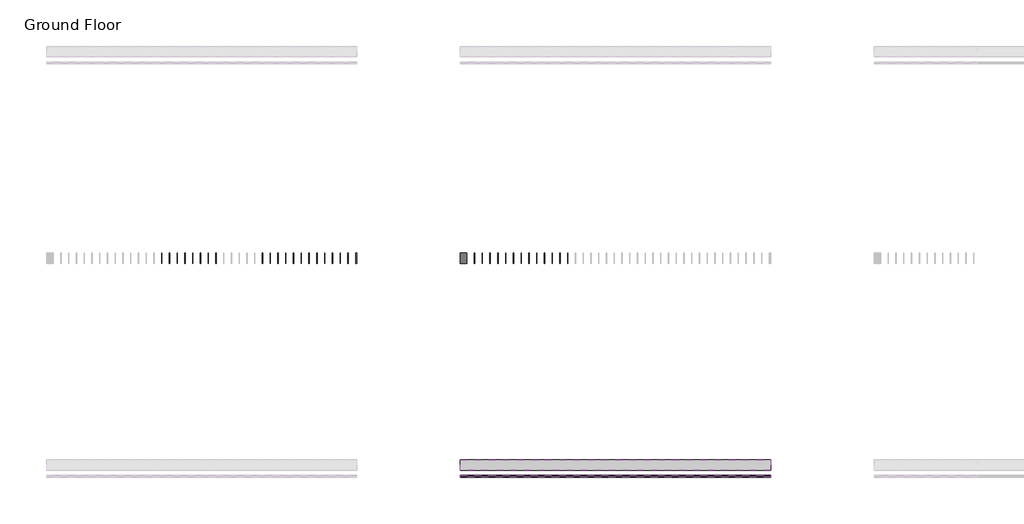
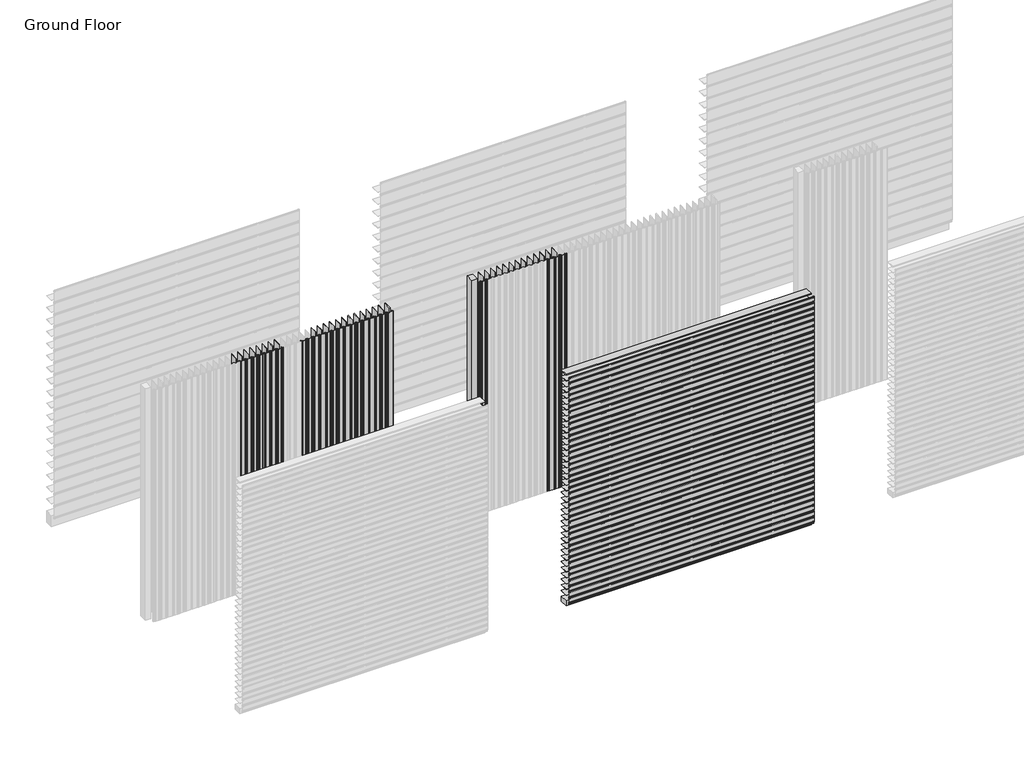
# One storey, part 33 of 350: 75 plates, 65 members.
"""IFC4 building model written with IfcOpenShell, lengths in millimetres."""

from ifc_helpers import new_model, si_unit, origin, place, context, project, spatial, transform, mapped, element, save
from components import rectangular_mullion_894c3da7, empty_system_panel_empty_02c6fd44, empty_system_panel_empty_81cf2ed3, empty_system_panel_empty_a36746fc, empty_system_panel_empty_86793474, empty_system_panel_empty_27b459cb, empty_system_panel_empty_8dc9dcb4

model = new_model("IFC4")

# Units and contexts
model_context = context("Model", 3, world=origin())
ifc_project = project(units=[si_unit("LENGTHUNIT", "METRE", prefix="MILLI")], contexts=[model_context])

# Site, building, storey
site = spatial("IfcSite", under=ifc_project)
building = spatial("IfcBuilding", under=site)
storey = spatial("IfcBuildingStorey", under=building, Name="Ground Floor", Elevation=0.0)

# Members
placement = place(None, origin())
rectangular_mullion_shape = rectangular_mullion_894c3da7(model_context)
element("IfcMember", 1, ObjectType="Rectangular Mullion : Cladding_Aluminium_Modinex_AluSelekta_Channel_75_SpottedGum", at=placement, inside=storey, context=model_context, shape_type="MappedRepresentation", body=[
    mapped(rectangular_mullion_shape, transform((42791.4361642, 14968.2978302, 0.0), x_axis=(1.0, 0.0, 0.0), y_axis=(0.0, -1.0, 0.0), z_axis=(0.0, 0.0, -1.0))),
])
element("IfcMember", 2, ObjectType="Rectangular Mullion : Cladding_Aluminium_Modinex_AluSelekta_Channel_75_SpottedGum", at=placement, inside=storey, context=model_context, shape_type="MappedRepresentation", body=[
    mapped(rectangular_mullion_shape, transform((42866.4361642, 14968.2978302, 0.0), x_axis=(1.0, 0.0, 0.0), y_axis=(0.0, -1.0, 0.0), z_axis=(0.0, 0.0, -1.0))),
])
element("IfcMember", 3, ObjectType="Rectangular Mullion : Cladding_Aluminium_Modinex_AluSelekta_Channel_75_SpottedGum", at=placement, inside=storey, context=model_context, shape_type="MappedRepresentation", body=[
    mapped(rectangular_mullion_shape, transform((42941.4361642, 14968.2978302, 0.0), x_axis=(1.0, 0.0, 0.0), y_axis=(0.0, -1.0, 0.0), z_axis=(0.0, 0.0, -1.0))),
])
element("IfcMember", 4, ObjectType="Rectangular Mullion : Cladding_Aluminium_Modinex_AluSelekta_Channel_75_SpottedGum", at=placement, inside=storey, context=model_context, shape_type="MappedRepresentation", body=[
    mapped(rectangular_mullion_shape, transform((43016.4361642, 14968.2978302, 0.0), x_axis=(1.0, 0.0, 0.0), y_axis=(0.0, -1.0, 0.0), z_axis=(0.0, 0.0, -1.0))),
])
element("IfcMember", 5, ObjectType="Rectangular Mullion : Cladding_Aluminium_Modinex_AluSelekta_Channel_75_SpottedGum", at=placement, inside=storey, context=model_context, shape_type="MappedRepresentation", body=[
    mapped(rectangular_mullion_shape, transform((43091.4361642, 14968.2978302, 0.0), x_axis=(1.0, 0.0, 0.0), y_axis=(0.0, -1.0, 0.0), z_axis=(0.0, 0.0, -1.0))),
])
element("IfcMember", 6, ObjectType="Rectangular Mullion : Cladding_Aluminium_Modinex_AluSelekta_Channel_75_SpottedGum", at=placement, inside=storey, context=model_context, shape_type="MappedRepresentation", body=[
    mapped(rectangular_mullion_shape, transform((43166.4361642, 14968.2978302, 0.0), x_axis=(1.0, 0.0, 0.0), y_axis=(0.0, -1.0, 0.0), z_axis=(0.0, 0.0, -1.0))),
])
element("IfcMember", 7, ObjectType="Rectangular Mullion : Cladding_Aluminium_Modinex_AluSelekta_Channel_75_SpottedGum", at=placement, inside=storey, context=model_context, shape_type="MappedRepresentation", body=[
    mapped(rectangular_mullion_shape, transform((43241.4361642, 14968.2978302, 0.0), x_axis=(1.0, 0.0, 0.0), y_axis=(0.0, -1.0, 0.0), z_axis=(0.0, 0.0, -1.0))),
])
element("IfcMember", 8, ObjectType="Rectangular Mullion : Cladding_Aluminium_Modinex_AluSelekta_Channel_75_SpottedGum", at=placement, inside=storey, context=model_context, shape_type="MappedRepresentation", body=[
    mapped(rectangular_mullion_shape, transform((43316.4361642, 14968.2978302, 0.0), x_axis=(1.0, 0.0, 0.0), y_axis=(0.0, -1.0, 0.0), z_axis=(0.0, 0.0, -1.0))),
])
element("IfcMember", 9, ObjectType="Rectangular Mullion : Cladding_Aluminium_Modinex_AluSelekta_Channel_75_SpottedGum", at=placement, inside=storey, context=model_context, shape_type="MappedRepresentation", body=[
    mapped(rectangular_mullion_shape, transform((43391.4361642, 14968.2978302, 0.0), x_axis=(1.0, 0.0, 0.0), y_axis=(0.0, -1.0, 0.0), z_axis=(0.0, 0.0, -1.0))),
])
element("IfcMember", 10, ObjectType="Rectangular Mullion : Cladding_Aluminium_Modinex_AluSelekta_Channel_75_SpottedGum", at=placement, inside=storey, context=model_context, shape_type="MappedRepresentation", body=[
    mapped(rectangular_mullion_shape, transform((43466.4361642, 14968.2978302, 0.0), x_axis=(1.0, 0.0, 0.0), y_axis=(0.0, -1.0, 0.0), z_axis=(0.0, 0.0, -1.0))),
])
element("IfcMember", 11, ObjectType="Rectangular Mullion : Cladding_Aluminium_Modinex_AluSelekta_Channel_75_SpottedGum", at=placement, inside=storey, context=model_context, shape_type="MappedRepresentation", body=[
    mapped(rectangular_mullion_shape, transform((43541.4361642, 14968.2978302, 0.0), x_axis=(1.0, 0.0, 0.0), y_axis=(0.0, -1.0, 0.0), z_axis=(0.0, 0.0, -1.0))),
])
element("IfcMember", 12, ObjectType="Rectangular Mullion : Cladding_Aluminium_Modinex_AluSelekta_Channel_75_SpottedGum", at=placement, inside=storey, context=model_context, shape_type="MappedRepresentation", body=[
    mapped(rectangular_mullion_shape, transform((43616.4361642, 14968.2978302, 0.0), x_axis=(1.0, 0.0, 0.0), y_axis=(0.0, -1.0, 0.0), z_axis=(0.0, 0.0, -1.0))),
])
element("IfcMember", 13, ObjectType="Rectangular Mullion : Cladding_Aluminium_Modinex_AluSelekta_Channel_75_SpottedGum", at=placement, inside=storey, context=model_context, shape_type="MappedRepresentation", body=[
    mapped(rectangular_mullion_shape, transform((43691.4361642, 14968.2978302, 0.0), x_axis=(1.0, 0.0, 0.0), y_axis=(0.0, -1.0, 0.0), z_axis=(0.0, 0.0, -1.0))),
])
element("IfcMember", 14, ObjectType="Rectangular Mullion : Cladding_Aluminium_Modinex_AluSelekta_Channel_75_SpottedGum", at=placement, inside=storey, context=model_context, shape_type="MappedRepresentation", body=[
    mapped(rectangular_mullion_shape, transform((43766.4361642, 14968.2978302, 0.0), x_axis=(1.0, 0.0, 0.0), y_axis=(0.0, -1.0, 0.0), z_axis=(0.0, 0.0, -1.0))),
])
element("IfcMember", 15, ObjectType="Rectangular Mullion : Cladding_Aluminium_Modinex_AluSelekta_Channel_75_SpottedGum", at=placement, inside=storey, context=model_context, shape_type="MappedRepresentation", body=[
    mapped(rectangular_mullion_shape, transform((43841.4361642, 14968.2978302, 0.0), x_axis=(1.0, 0.0, 0.0), y_axis=(0.0, -1.0, 0.0), z_axis=(0.0, 0.0, -1.0))),
])
element("IfcMember", 16, ObjectType="Rectangular Mullion : Cladding_Aluminium_Modinex_AluSelekta_Channel_75_SpottedGum", at=placement, inside=storey, context=model_context, shape_type="MappedRepresentation", body=[
    mapped(rectangular_mullion_shape, transform((42491.4361642, 14968.2978302, 0.0), x_axis=(1.0, 0.0, 0.0), y_axis=(0.0, -1.0, 0.0), z_axis=(0.0, 0.0, -1.0))),
])
element("IfcMember", 17, ObjectType="Rectangular Mullion : Cladding_Aluminium_Modinex_AluSelekta_Channel_75_SpottedGum", at=placement, inside=storey, context=model_context, shape_type="MappedRepresentation", body=[
    mapped(rectangular_mullion_shape, transform((42416.4361642, 14968.2978302, 0.0), x_axis=(1.0, 0.0, 0.0), y_axis=(0.0, -1.0, 0.0), z_axis=(0.0, 0.0, -1.0))),
])
element("IfcMember", 18, ObjectType="Rectangular Mullion : Cladding_Aluminium_Modinex_AluSelekta_Channel_75_SpottedGum", at=placement, inside=storey, context=model_context, shape_type="MappedRepresentation", body=[
    mapped(rectangular_mullion_shape, transform((42341.4361642, 14968.2978302, 0.0), x_axis=(1.0, 0.0, 0.0), y_axis=(0.0, -1.0, 0.0), z_axis=(0.0, 0.0, -1.0))),
])
element("IfcMember", 19, ObjectType="Rectangular Mullion : Cladding_Aluminium_Modinex_AluSelekta_Channel_75_SpottedGum", at=placement, inside=storey, context=model_context, shape_type="MappedRepresentation", body=[
    mapped(rectangular_mullion_shape, transform((42266.4361642, 14968.2978302, 0.0), x_axis=(1.0, 0.0, 0.0), y_axis=(0.0, -1.0, 0.0), z_axis=(0.0, 0.0, -1.0))),
])
element("IfcMember", 20, ObjectType="Rectangular Mullion : Cladding_Aluminium_Modinex_AluSelekta_Channel_75_SpottedGum", at=placement, inside=storey, context=model_context, shape_type="MappedRepresentation", body=[
    mapped(rectangular_mullion_shape, transform((42191.4361642, 14968.2978302, 0.0), x_axis=(1.0, 0.0, 0.0), y_axis=(0.0, -1.0, 0.0), z_axis=(0.0, 0.0, -1.0))),
])
element("IfcMember", 21, ObjectType="Rectangular Mullion : Cladding_Aluminium_Modinex_AluSelekta_Channel_75_SpottedGum", at=placement, inside=storey, context=model_context, shape_type="MappedRepresentation", body=[
    mapped(rectangular_mullion_shape, transform((42116.4361642, 14968.2978302, 0.0), x_axis=(1.0, 0.0, 0.0), y_axis=(0.0, -1.0, 0.0), z_axis=(0.0, 0.0, -1.0))),
])
element("IfcMember", 22, ObjectType="Rectangular Mullion : Cladding_Aluminium_Modinex_AluSelekta_Channel_75_SpottedGum", at=placement, inside=storey, context=model_context, shape_type="MappedRepresentation", body=[
    mapped(rectangular_mullion_shape, transform((42041.4361642, 14968.2978302, 0.0), x_axis=(1.0, 0.0, 0.0), y_axis=(0.0, -1.0, 0.0), z_axis=(0.0, 0.0, -1.0))),
])
element("IfcMember", 23, ObjectType="Rectangular Mullion : Cladding_Aluminium_Modinex_AluSelekta_Channel_75_TasmanianOak", at=placement, inside=storey, context=model_context, shape_type="MappedRepresentation", body=[
    mapped(rectangular_mullion_shape, transform((47916.4361639, 12968.2978302, 75.0), x_axis=(0.0, 0.0, 1.0), y_axis=(0.0, -1.0, 0.0), z_axis=(1.0, 0.0, 0.0))),
])
element("IfcMember", 24, ObjectType="Rectangular Mullion : Cladding_Aluminium_Modinex_AluSelekta_Channel_75_TasmanianOak", at=placement, inside=storey, context=model_context, shape_type="MappedRepresentation", body=[
    mapped(rectangular_mullion_shape, transform((47916.4361639, 12968.2978302, 150.0), x_axis=(0.0, 0.0, 1.0), y_axis=(0.0, -1.0, 0.0), z_axis=(1.0, 0.0, 0.0))),
])
element("IfcMember", 25, ObjectType="Rectangular Mullion : Cladding_Aluminium_Modinex_AluSelekta_Channel_75_TasmanianOak", at=placement, inside=storey, context=model_context, shape_type="MappedRepresentation", body=[
    mapped(rectangular_mullion_shape, transform((47916.4361639, 12968.2978302, 225.0), x_axis=(0.0, 0.0, 1.0), y_axis=(0.0, -1.0, 0.0), z_axis=(1.0, 0.0, 0.0))),
])
element("IfcMember", 26, ObjectType="Rectangular Mullion : Cladding_Aluminium_Modinex_AluSelekta_Channel_75_TasmanianOak", at=placement, inside=storey, context=model_context, shape_type="MappedRepresentation", body=[
    mapped(rectangular_mullion_shape, transform((47916.4361639, 12968.2978302, 300.0), x_axis=(0.0, 0.0, 1.0), y_axis=(0.0, -1.0, 0.0), z_axis=(1.0, 0.0, 0.0))),
])
element("IfcMember", 27, ObjectType="Rectangular Mullion : Cladding_Aluminium_Modinex_AluSelekta_Channel_75_TasmanianOak", at=placement, inside=storey, context=model_context, shape_type="MappedRepresentation", body=[
    mapped(rectangular_mullion_shape, transform((47916.4361639, 12968.2978302, 375.0), x_axis=(0.0, 0.0, 1.0), y_axis=(0.0, -1.0, 0.0), z_axis=(1.0, 0.0, 0.0))),
])
element("IfcMember", 28, ObjectType="Rectangular Mullion : Cladding_Aluminium_Modinex_AluSelekta_Channel_75_TasmanianOak", at=placement, inside=storey, context=model_context, shape_type="MappedRepresentation", body=[
    mapped(rectangular_mullion_shape, transform((47916.4361639, 12968.2978302, 450.0), x_axis=(0.0, 0.0, 1.0), y_axis=(0.0, -1.0, 0.0), z_axis=(1.0, 0.0, 0.0))),
])
element("IfcMember", 29, ObjectType="Rectangular Mullion : Cladding_Aluminium_Modinex_AluSelekta_Channel_75_TasmanianOak", at=placement, inside=storey, context=model_context, shape_type="MappedRepresentation", body=[
    mapped(rectangular_mullion_shape, transform((47916.4361639, 12968.2978302, 525.0), x_axis=(0.0, 0.0, 1.0), y_axis=(0.0, -1.0, 0.0), z_axis=(1.0, 0.0, 0.0))),
])
element("IfcMember", 30, ObjectType="Rectangular Mullion : Cladding_Aluminium_Modinex_AluSelekta_Channel_75_TasmanianOak", at=placement, inside=storey, context=model_context, shape_type="MappedRepresentation", body=[
    mapped(rectangular_mullion_shape, transform((47916.4361639, 12968.2978302, 600.0), x_axis=(0.0, 0.0, 1.0), y_axis=(0.0, -1.0, 0.0), z_axis=(1.0, 0.0, 0.0))),
])
element("IfcMember", 31, ObjectType="Rectangular Mullion : Cladding_Aluminium_Modinex_AluSelekta_Channel_75_TasmanianOak", at=placement, inside=storey, context=model_context, shape_type="MappedRepresentation", body=[
    mapped(rectangular_mullion_shape, transform((47916.4361639, 12968.2978302, 675.0), x_axis=(0.0, 0.0, 1.0), y_axis=(0.0, -1.0, 0.0), z_axis=(1.0, 0.0, 0.0))),
])
element("IfcMember", 32, ObjectType="Rectangular Mullion : Cladding_Aluminium_Modinex_AluSelekta_Channel_75_TasmanianOak", at=placement, inside=storey, context=model_context, shape_type="MappedRepresentation", body=[
    mapped(rectangular_mullion_shape, transform((47916.4361639, 12968.2978302, 750.0), x_axis=(0.0, 0.0, 1.0), y_axis=(0.0, -1.0, 0.0), z_axis=(1.0, 0.0, 0.0))),
])
element("IfcMember", 33, ObjectType="Rectangular Mullion : Cladding_Aluminium_Modinex_AluSelekta_Channel_75_TasmanianOak", at=placement, inside=storey, context=model_context, shape_type="MappedRepresentation", body=[
    mapped(rectangular_mullion_shape, transform((47916.4361639, 12968.2978302, 825.0), x_axis=(0.0, 0.0, 1.0), y_axis=(0.0, -1.0, 0.0), z_axis=(1.0, 0.0, 0.0))),
])
element("IfcMember", 34, ObjectType="Rectangular Mullion : Cladding_Aluminium_Modinex_AluSelekta_Channel_75_TasmanianOak", at=placement, inside=storey, context=model_context, shape_type="MappedRepresentation", body=[
    mapped(rectangular_mullion_shape, transform((47916.4361639, 12968.2978302, 900.0), x_axis=(0.0, 0.0, 1.0), y_axis=(0.0, -1.0, 0.0), z_axis=(1.0, 0.0, 0.0))),
])
element("IfcMember", 35, ObjectType="Rectangular Mullion : Cladding_Aluminium_Modinex_AluSelekta_Channel_75_TasmanianOak", at=placement, inside=storey, context=model_context, shape_type="MappedRepresentation", body=[
    mapped(rectangular_mullion_shape, transform((47916.4361639, 12968.2978302, 975.0), x_axis=(0.0, 0.0, 1.0), y_axis=(0.0, -1.0, 0.0), z_axis=(1.0, 0.0, 0.0))),
])
element("IfcMember", 36, ObjectType="Rectangular Mullion : Cladding_Aluminium_Modinex_AluSelekta_Channel_75_TasmanianOak", at=placement, inside=storey, context=model_context, shape_type="MappedRepresentation", body=[
    mapped(rectangular_mullion_shape, transform((47916.4361639, 12968.2978302, 1050.0), x_axis=(0.0, 0.0, 1.0), y_axis=(0.0, -1.0, 0.0), z_axis=(1.0, 0.0, 0.0))),
])
element("IfcMember", 37, ObjectType="Rectangular Mullion : Cladding_Aluminium_Modinex_AluSelekta_Channel_75_TasmanianOak", at=placement, inside=storey, context=model_context, shape_type="MappedRepresentation", body=[
    mapped(rectangular_mullion_shape, transform((47916.4361639, 12968.2978302, 1125.0), x_axis=(0.0, 0.0, 1.0), y_axis=(0.0, -1.0, 0.0), z_axis=(1.0, 0.0, 0.0))),
])
element("IfcMember", 38, ObjectType="Rectangular Mullion : Cladding_Aluminium_Modinex_AluSelekta_Channel_75_TasmanianOak", at=placement, inside=storey, context=model_context, shape_type="MappedRepresentation", body=[
    mapped(rectangular_mullion_shape, transform((47916.4361639, 12968.2978302, 1200.0), x_axis=(0.0, 0.0, 1.0), y_axis=(0.0, -1.0, 0.0), z_axis=(1.0, 0.0, 0.0))),
])
element("IfcMember", 39, ObjectType="Rectangular Mullion : Cladding_Aluminium_Modinex_AluSelekta_Channel_75_TasmanianOak", at=placement, inside=storey, context=model_context, shape_type="MappedRepresentation", body=[
    mapped(rectangular_mullion_shape, transform((47916.4361639, 12968.2978302, 1275.0), x_axis=(0.0, 0.0, 1.0), y_axis=(0.0, -1.0, 0.0), z_axis=(1.0, 0.0, 0.0))),
])
element("IfcMember", 40, ObjectType="Rectangular Mullion : Cladding_Aluminium_Modinex_AluSelekta_Channel_75_TasmanianOak", at=placement, inside=storey, context=model_context, shape_type="MappedRepresentation", body=[
    mapped(rectangular_mullion_shape, transform((47916.4361639, 12968.2978302, 1350.0), x_axis=(0.0, 0.0, 1.0), y_axis=(0.0, -1.0, 0.0), z_axis=(1.0, 0.0, 0.0))),
])
element("IfcMember", 41, ObjectType="Rectangular Mullion : Cladding_Aluminium_Modinex_AluSelekta_Channel_75_TasmanianOak", at=placement, inside=storey, context=model_context, shape_type="MappedRepresentation", body=[
    mapped(rectangular_mullion_shape, transform((47916.4361639, 12968.2978302, 1425.0), x_axis=(0.0, 0.0, 1.0), y_axis=(0.0, -1.0, 0.0), z_axis=(1.0, 0.0, 0.0))),
])
element("IfcMember", 42, ObjectType="Rectangular Mullion : Cladding_Aluminium_Modinex_AluSelekta_Channel_75_TasmanianOak", at=placement, inside=storey, context=model_context, shape_type="MappedRepresentation", body=[
    mapped(rectangular_mullion_shape, transform((47916.4361639, 12968.2978302, 1500.0), x_axis=(0.0, 0.0, 1.0), y_axis=(0.0, -1.0, 0.0), z_axis=(1.0, 0.0, 0.0))),
])
element("IfcMember", 43, ObjectType="Rectangular Mullion : Cladding_Aluminium_Modinex_AluSelekta_Channel_75_TasmanianOak", at=placement, inside=storey, context=model_context, shape_type="MappedRepresentation", body=[
    mapped(rectangular_mullion_shape, transform((47916.4361639, 12968.2978302, 1575.0), x_axis=(0.0, 0.0, 1.0), y_axis=(0.0, -1.0, 0.0), z_axis=(1.0, 0.0, 0.0))),
])
element("IfcMember", 44, ObjectType="Rectangular Mullion : Cladding_Aluminium_Modinex_AluSelekta_Channel_75_TasmanianOak", at=placement, inside=storey, context=model_context, shape_type="MappedRepresentation", body=[
    mapped(rectangular_mullion_shape, transform((47916.4361639, 12968.2978302, 1650.0), x_axis=(0.0, 0.0, 1.0), y_axis=(0.0, -1.0, 0.0), z_axis=(1.0, 0.0, 0.0))),
])
element("IfcMember", 45, ObjectType="Rectangular Mullion : Cladding_Aluminium_Modinex_AluSelekta_Channel_75_TasmanianOak", at=placement, inside=storey, context=model_context, shape_type="MappedRepresentation", body=[
    mapped(rectangular_mullion_shape, transform((47916.4361639, 12968.2978302, 1725.0), x_axis=(0.0, 0.0, 1.0), y_axis=(0.0, -1.0, 0.0), z_axis=(1.0, 0.0, 0.0))),
])
element("IfcMember", 46, ObjectType="Rectangular Mullion : Cladding_Aluminium_Modinex_AluSelekta_Channel_75_TasmanianOak", at=placement, inside=storey, context=model_context, shape_type="MappedRepresentation", body=[
    mapped(rectangular_mullion_shape, transform((47916.4361639, 12968.2978302, 1800.0), x_axis=(0.0, 0.0, 1.0), y_axis=(0.0, -1.0, 0.0), z_axis=(1.0, 0.0, 0.0))),
])
element("IfcMember", 47, ObjectType="Rectangular Mullion : Cladding_Aluminium_Modinex_AluSelekta_Channel_75_TasmanianOak", at=placement, inside=storey, context=model_context, shape_type="MappedRepresentation", body=[
    mapped(rectangular_mullion_shape, transform((47916.4361639, 12968.2978302, 1875.0), x_axis=(0.0, 0.0, 1.0), y_axis=(0.0, -1.0, 0.0), z_axis=(1.0, 0.0, 0.0))),
])
element("IfcMember", 48, ObjectType="Rectangular Mullion : Cladding_Aluminium_Modinex_AluSelekta_Channel_75_TasmanianOak", at=placement, inside=storey, context=model_context, shape_type="MappedRepresentation", body=[
    mapped(rectangular_mullion_shape, transform((47916.4361639, 12968.2978302, 1950.0), x_axis=(0.0, 0.0, 1.0), y_axis=(0.0, -1.0, 0.0), z_axis=(1.0, 0.0, 0.0))),
])
element("IfcMember", 49, ObjectType="Rectangular Mullion : Cladding_Aluminium_Modinex_AluSelekta_Channel_75_TasmanianOak", at=placement, inside=storey, context=model_context, shape_type="MappedRepresentation", body=[
    mapped(rectangular_mullion_shape, transform((47916.4361639, 12968.2978302, 2025.0), x_axis=(0.0, 0.0, 1.0), y_axis=(0.0, -1.0, 0.0), z_axis=(1.0, 0.0, 0.0))),
])
element("IfcMember", 50, ObjectType="Rectangular Mullion : Cladding_Aluminium_Modinex_AluSelekta_Channel_75_TasmanianOak", at=placement, inside=storey, context=model_context, shape_type="MappedRepresentation", body=[
    mapped(rectangular_mullion_shape, transform((47916.4361639, 12968.2978302, 2100.0), x_axis=(0.0, 0.0, 1.0), y_axis=(0.0, -1.0, 0.0), z_axis=(1.0, 0.0, 0.0))),
])
element("IfcMember", 51, ObjectType="Rectangular Mullion : Cladding_Aluminium_Modinex_AluSelekta_Channel_75_TasmanianOak", at=placement, inside=storey, context=model_context, shape_type="MappedRepresentation", body=[
    mapped(rectangular_mullion_shape, transform((47916.4361639, 12968.2978302, 2175.0), x_axis=(0.0, 0.0, 1.0), y_axis=(0.0, -1.0, 0.0), z_axis=(1.0, 0.0, 0.0))),
])
element("IfcMember", 52, ObjectType="Rectangular Mullion : Cladding_Aluminium_Modinex_AluSelekta_Channel_75_TasmanianOak", at=placement, inside=storey, context=model_context, shape_type="MappedRepresentation", body=[
    mapped(rectangular_mullion_shape, transform((47916.4361639, 12968.2978302, 2250.0), x_axis=(0.0, 0.0, 1.0), y_axis=(0.0, -1.0, 0.0), z_axis=(1.0, 0.0, 0.0))),
])
element("IfcMember", 53, ObjectType="Rectangular Mullion : Cladding_Aluminium_Modinex_AluSelekta_Channel_75_TasmanianOak", at=placement, inside=storey, context=model_context, shape_type="MappedRepresentation", body=[
    mapped(rectangular_mullion_shape, transform((47916.4361639, 12968.2978302, 2325.0), x_axis=(0.0, 0.0, 1.0), y_axis=(0.0, -1.0, 0.0), z_axis=(1.0, 0.0, 0.0))),
])
element("IfcMember", 54, ObjectType="Rectangular Mullion : Cladding_Aluminium_Modinex_AluSelekta_Channel_75_TasmanianOak", at=placement, inside=storey, context=model_context, shape_type="MappedRepresentation", body=[
    mapped(rectangular_mullion_shape, transform((47916.4361639, 12968.2978302, 2400.0), x_axis=(0.0, 0.0, 1.0), y_axis=(0.0, -1.0, 0.0), z_axis=(1.0, 0.0, 0.0))),
])
element("IfcMember", 55, ObjectType="Rectangular Mullion : Cladding_Aluminium_Modinex_AluSelekta_Channel_75_TasmanianOak", at=placement, inside=storey, context=model_context, shape_type="MappedRepresentation", body=[
    mapped(rectangular_mullion_shape, transform((47916.4361639, 12968.2978302, 2475.0), x_axis=(0.0, 0.0, 1.0), y_axis=(0.0, -1.0, 0.0), z_axis=(1.0, 0.0, 0.0))),
])
element("IfcMember", 56, ObjectType="Rectangular Mullion : Cladding_Aluminium_Modinex_AluSelekta_Channel_75_TasmanianOak", at=placement, inside=storey, context=model_context, shape_type="MappedRepresentation", body=[
    mapped(rectangular_mullion_shape, transform((47916.4361639, 12968.2978302, 2550.0), x_axis=(0.0, 0.0, 1.0), y_axis=(0.0, -1.0, 0.0), z_axis=(1.0, 0.0, 0.0))),
])
element("IfcMember", 57, ObjectType="Rectangular Mullion : Cladding_Aluminium_Modinex_AluSelekta_Channel_75_TasmanianOak", at=placement, inside=storey, context=model_context, shape_type="MappedRepresentation", body=[
    mapped(rectangular_mullion_shape, transform((47916.4361639, 12968.2978302, 2625.0), x_axis=(0.0, 0.0, 1.0), y_axis=(0.0, -1.0, 0.0), z_axis=(1.0, 0.0, 0.0))),
])
element("IfcMember", 58, ObjectType="Rectangular Mullion : Cladding_Aluminium_Modinex_AluSelekta_Channel_75_TasmanianOak", at=placement, inside=storey, context=model_context, shape_type="MappedRepresentation", body=[
    mapped(rectangular_mullion_shape, transform((47916.4361639, 12968.2978302, 2700.0), x_axis=(0.0, 0.0, 1.0), y_axis=(0.0, -1.0, 0.0), z_axis=(1.0, 0.0, 0.0))),
])
element("IfcMember", 59, ObjectType="Rectangular Mullion : Cladding_Aluminium_Modinex_AluSelekta_Channel_75_TasmanianOak", at=placement, inside=storey, context=model_context, shape_type="MappedRepresentation", body=[
    mapped(rectangular_mullion_shape, transform((47916.4361639, 12968.2978302, 2775.0), x_axis=(0.0, 0.0, 1.0), y_axis=(0.0, -1.0, 0.0), z_axis=(1.0, 0.0, 0.0))),
])
element("IfcMember", 60, ObjectType="Rectangular Mullion : Cladding_Aluminium_Modinex_AluSelekta_Channel_75_TasmanianOak", at=placement, inside=storey, context=model_context, shape_type="MappedRepresentation", body=[
    mapped(rectangular_mullion_shape, transform((47916.4361639, 12968.2978302, 2850.0), x_axis=(0.0, 0.0, 1.0), y_axis=(0.0, -1.0, 0.0), z_axis=(1.0, 0.0, 0.0))),
])
element("IfcMember", 61, ObjectType="Rectangular Mullion : Cladding_Aluminium_Modinex_AluSelekta_Channel_75_TasmanianOak", at=placement, inside=storey, context=model_context, shape_type="MappedRepresentation", body=[
    mapped(rectangular_mullion_shape, transform((47916.4361639, 12968.2978302, 2925.0), x_axis=(0.0, 0.0, 1.0), y_axis=(0.0, -1.0, 0.0), z_axis=(1.0, 0.0, 0.0))),
])
element("IfcMember", 62, ObjectType="Rectangular Mullion : Cladding_Aluminium_Modinex_AluSelekta_Channel_75_TasmanianOak", at=placement, inside=storey, context=model_context, shape_type="MappedRepresentation", body=[
    mapped(rectangular_mullion_shape, transform((45966.4361642, 14968.2978302, 0.0), x_axis=(1.0, 0.0, 0.0), y_axis=(0.0, -1.0, 0.0), z_axis=(0.0, 0.0, -1.0))),
])
element("IfcMember", 63, ObjectType="Rectangular Mullion : Cladding_Aluminium_Modinex_AluSelekta_Channel_75_TasmanianOak", at=placement, inside=storey, context=model_context, shape_type="MappedRepresentation", body=[
    mapped(rectangular_mullion_shape, transform((45891.4361642, 14968.2978302, 0.0), x_axis=(1.0, 0.0, 0.0), y_axis=(0.0, -1.0, 0.0), z_axis=(0.0, 0.0, -1.0))),
])
element("IfcMember", 64, ObjectType="Rectangular Mullion : Cladding_Aluminium_Modinex_AluSelekta_Channel_75_TasmanianOak", at=placement, inside=storey, context=model_context, shape_type="MappedRepresentation", body=[
    mapped(rectangular_mullion_shape, transform((45816.4361642, 14968.2978302, 0.0), x_axis=(1.0, 0.0, 0.0), y_axis=(0.0, -1.0, 0.0), z_axis=(0.0, 0.0, -1.0))),
])
element("IfcMember", 65, ObjectType="Rectangular Mullion : Cladding_Aluminium_Modinex_AluSelekta_Channel_75_TasmanianOak", at=placement, inside=storey, context=model_context, shape_type="MappedRepresentation", body=[
    mapped(rectangular_mullion_shape, transform((44991.4361642, 14968.2978302, 0.0), x_axis=(1.0, 0.0, 0.0), y_axis=(0.0, -1.0, 0.0), z_axis=(0.0, 0.0, -1.0))),
])

# Plates
empty_system_panel_empty_shape = empty_system_panel_empty_02c6fd44(model_context)
element("IfcPlate", 66, ObjectType="Empty System Panel : Empty", at=placement, inside=storey, context=model_context, shape_type="MappedRepresentation", body=[
    mapped(empty_system_panel_empty_shape, transform((46416.4361639, 12968.2978302, 137.2580963), x_axis=(1.0, 0.0, 0.0), y_axis=(0.0, 1.0, 0.0), z_axis=(0.0, 0.0, 1.0))),
])
element("IfcPlate", 67, ObjectType="Empty System Panel : Empty", at=placement, inside=storey, context=model_context, shape_type="MappedRepresentation", body=[
    mapped(empty_system_panel_empty_shape, transform((46416.4361639, 12968.2978302, 212.2580963), x_axis=(1.0, 0.0, 0.0), y_axis=(0.0, 1.0, 0.0), z_axis=(0.0, 0.0, 1.0))),
])
element("IfcPlate", 68, ObjectType="Empty System Panel : Empty", at=placement, inside=storey, context=model_context, shape_type="MappedRepresentation", body=[
    mapped(empty_system_panel_empty_shape, transform((46416.4361639, 12968.2978302, 287.2580963), x_axis=(1.0, 0.0, 0.0), y_axis=(0.0, 1.0, 0.0), z_axis=(0.0, 0.0, 1.0))),
])
element("IfcPlate", 69, ObjectType="Empty System Panel : Empty", at=placement, inside=storey, context=model_context, shape_type="MappedRepresentation", body=[
    mapped(empty_system_panel_empty_shape, transform((46416.4361639, 12968.2978302, 362.2580963), x_axis=(1.0, 0.0, 0.0), y_axis=(0.0, 1.0, 0.0), z_axis=(0.0, 0.0, 1.0))),
])
element("IfcPlate", 70, ObjectType="Empty System Panel : Empty", at=placement, inside=storey, context=model_context, shape_type="MappedRepresentation", body=[
    mapped(empty_system_panel_empty_shape, transform((46416.4361639, 12968.2978302, 437.2580963), x_axis=(1.0, 0.0, 0.0), y_axis=(0.0, 1.0, 0.0), z_axis=(0.0, 0.0, 1.0))),
])
element("IfcPlate", 71, ObjectType="Empty System Panel : Empty", at=placement, inside=storey, context=model_context, shape_type="MappedRepresentation", body=[
    mapped(empty_system_panel_empty_shape, transform((46416.4361639, 12968.2978302, 512.2580963), x_axis=(1.0, 0.0, 0.0), y_axis=(0.0, 1.0, 0.0), z_axis=(0.0, 0.0, 1.0))),
])
element("IfcPlate", 72, ObjectType="Empty System Panel : Empty", at=placement, inside=storey, context=model_context, shape_type="MappedRepresentation", body=[
    mapped(empty_system_panel_empty_shape, transform((46416.4361639, 12968.2978302, 587.2580963), x_axis=(1.0, 0.0, 0.0), y_axis=(0.0, 1.0, 0.0), z_axis=(0.0, 0.0, 1.0))),
])
element("IfcPlate", 73, ObjectType="Empty System Panel : Empty", at=placement, inside=storey, context=model_context, shape_type="MappedRepresentation", body=[
    mapped(empty_system_panel_empty_shape, transform((46416.4361639, 12968.2978302, 662.2580963), x_axis=(1.0, 0.0, 0.0), y_axis=(0.0, 1.0, 0.0), z_axis=(0.0, 0.0, 1.0))),
])
element("IfcPlate", 74, ObjectType="Empty System Panel : Empty", at=placement, inside=storey, context=model_context, shape_type="MappedRepresentation", body=[
    mapped(empty_system_panel_empty_shape, transform((46416.4361639, 12968.2978302, 737.2580963), x_axis=(1.0, 0.0, 0.0), y_axis=(0.0, 1.0, 0.0), z_axis=(0.0, 0.0, 1.0))),
])
element("IfcPlate", 75, ObjectType="Empty System Panel : Empty", at=placement, inside=storey, context=model_context, shape_type="MappedRepresentation", body=[
    mapped(empty_system_panel_empty_shape, transform((46416.4361639, 12968.2978302, 812.2580963), x_axis=(1.0, 0.0, 0.0), y_axis=(0.0, 1.0, 0.0), z_axis=(0.0, 0.0, 1.0))),
])
element("IfcPlate", 76, ObjectType="Empty System Panel : Empty", at=placement, inside=storey, context=model_context, shape_type="MappedRepresentation", body=[
    mapped(empty_system_panel_empty_shape, transform((46416.4361639, 12968.2978302, 887.2580963), x_axis=(1.0, 0.0, 0.0), y_axis=(0.0, 1.0, 0.0), z_axis=(0.0, 0.0, 1.0))),
])
element("IfcPlate", 77, ObjectType="Empty System Panel : Empty", at=placement, inside=storey, context=model_context, shape_type="MappedRepresentation", body=[
    mapped(empty_system_panel_empty_shape, transform((46416.4361639, 12968.2978302, 962.2580963), x_axis=(1.0, 0.0, 0.0), y_axis=(0.0, 1.0, 0.0), z_axis=(0.0, 0.0, 1.0))),
])
element("IfcPlate", 78, ObjectType="Empty System Panel : Empty", at=placement, inside=storey, context=model_context, shape_type="MappedRepresentation", body=[
    mapped(empty_system_panel_empty_shape, transform((46416.4361639, 12968.2978302, 1037.2580963), x_axis=(1.0, 0.0, 0.0), y_axis=(0.0, 1.0, 0.0), z_axis=(0.0, 0.0, 1.0))),
])
element("IfcPlate", 79, ObjectType="Empty System Panel : Empty", at=placement, inside=storey, context=model_context, shape_type="MappedRepresentation", body=[
    mapped(empty_system_panel_empty_shape, transform((46416.4361639, 12968.2978302, 1112.2580963), x_axis=(1.0, 0.0, 0.0), y_axis=(0.0, 1.0, 0.0), z_axis=(0.0, 0.0, 1.0))),
])
element("IfcPlate", 80, ObjectType="Empty System Panel : Empty", at=placement, inside=storey, context=model_context, shape_type="MappedRepresentation", body=[
    mapped(empty_system_panel_empty_shape, transform((46416.4361639, 12968.2978302, 1187.2580963), x_axis=(1.0, 0.0, 0.0), y_axis=(0.0, 1.0, 0.0), z_axis=(0.0, 0.0, 1.0))),
])
element("IfcPlate", 81, ObjectType="Empty System Panel : Empty", at=placement, inside=storey, context=model_context, shape_type="MappedRepresentation", body=[
    mapped(empty_system_panel_empty_shape, transform((46416.4361639, 12968.2978302, 1262.2580963), x_axis=(1.0, 0.0, 0.0), y_axis=(0.0, 1.0, 0.0), z_axis=(0.0, 0.0, 1.0))),
])
element("IfcPlate", 82, ObjectType="Empty System Panel : Empty", at=placement, inside=storey, context=model_context, shape_type="MappedRepresentation", body=[
    mapped(empty_system_panel_empty_shape, transform((46416.4361639, 12968.2978302, 1337.2580963), x_axis=(1.0, 0.0, 0.0), y_axis=(0.0, 1.0, 0.0), z_axis=(0.0, 0.0, 1.0))),
])
element("IfcPlate", 83, ObjectType="Empty System Panel : Empty", at=placement, inside=storey, context=model_context, shape_type="MappedRepresentation", body=[
    mapped(empty_system_panel_empty_shape, transform((46416.4361639, 12968.2978302, 1412.2580963), x_axis=(1.0, 0.0, 0.0), y_axis=(0.0, 1.0, 0.0), z_axis=(0.0, 0.0, 1.0))),
])
element("IfcPlate", 84, ObjectType="Empty System Panel : Empty", at=placement, inside=storey, context=model_context, shape_type="MappedRepresentation", body=[
    mapped(empty_system_panel_empty_shape, transform((46416.4361639, 12968.2978302, 1487.2580963), x_axis=(1.0, 0.0, 0.0), y_axis=(0.0, 1.0, 0.0), z_axis=(0.0, 0.0, 1.0))),
])
element("IfcPlate", 85, ObjectType="Empty System Panel : Empty", at=placement, inside=storey, context=model_context, shape_type="MappedRepresentation", body=[
    mapped(empty_system_panel_empty_shape, transform((46416.4361639, 12968.2978302, 1562.2580963), x_axis=(1.0, 0.0, 0.0), y_axis=(0.0, 1.0, 0.0), z_axis=(0.0, 0.0, 1.0))),
])
element("IfcPlate", 86, ObjectType="Empty System Panel : Empty", at=placement, inside=storey, context=model_context, shape_type="MappedRepresentation", body=[
    mapped(empty_system_panel_empty_shape, transform((46416.4361639, 12968.2978302, 1637.2580963), x_axis=(1.0, 0.0, 0.0), y_axis=(0.0, 1.0, 0.0), z_axis=(0.0, 0.0, 1.0))),
])
element("IfcPlate", 87, ObjectType="Empty System Panel : Empty", at=placement, inside=storey, context=model_context, shape_type="MappedRepresentation", body=[
    mapped(empty_system_panel_empty_shape, transform((46416.4361639, 12968.2978302, 1712.2580963), x_axis=(1.0, 0.0, 0.0), y_axis=(0.0, 1.0, 0.0), z_axis=(0.0, 0.0, 1.0))),
])
element("IfcPlate", 88, ObjectType="Empty System Panel : Empty", at=placement, inside=storey, context=model_context, shape_type="MappedRepresentation", body=[
    mapped(empty_system_panel_empty_shape, transform((46416.4361639, 12968.2978302, 1787.2580963), x_axis=(1.0, 0.0, 0.0), y_axis=(0.0, 1.0, 0.0), z_axis=(0.0, 0.0, 1.0))),
])
element("IfcPlate", 89, ObjectType="Empty System Panel : Empty", at=placement, inside=storey, context=model_context, shape_type="MappedRepresentation", body=[
    mapped(empty_system_panel_empty_shape, transform((46416.4361639, 12968.2978302, 1862.2580963), x_axis=(1.0, 0.0, 0.0), y_axis=(0.0, 1.0, 0.0), z_axis=(0.0, 0.0, 1.0))),
])
element("IfcPlate", 90, ObjectType="Empty System Panel : Empty", at=placement, inside=storey, context=model_context, shape_type="MappedRepresentation", body=[
    mapped(empty_system_panel_empty_shape, transform((46416.4361639, 12968.2978302, 1937.2580963), x_axis=(1.0, 0.0, 0.0), y_axis=(0.0, 1.0, 0.0), z_axis=(0.0, 0.0, 1.0))),
])
element("IfcPlate", 91, ObjectType="Empty System Panel : Empty", at=placement, inside=storey, context=model_context, shape_type="MappedRepresentation", body=[
    mapped(empty_system_panel_empty_shape, transform((46416.4361639, 12968.2978302, 2012.2580963), x_axis=(1.0, 0.0, 0.0), y_axis=(0.0, 1.0, 0.0), z_axis=(0.0, 0.0, 1.0))),
])
element("IfcPlate", 92, ObjectType="Empty System Panel : Empty", at=placement, inside=storey, context=model_context, shape_type="MappedRepresentation", body=[
    mapped(empty_system_panel_empty_shape, transform((46416.4361639, 12968.2978302, 2087.2580963), x_axis=(1.0, 0.0, 0.0), y_axis=(0.0, 1.0, 0.0), z_axis=(0.0, 0.0, 1.0))),
])
element("IfcPlate", 93, ObjectType="Empty System Panel : Empty", at=placement, inside=storey, context=model_context, shape_type="MappedRepresentation", body=[
    mapped(empty_system_panel_empty_shape, transform((46416.4361639, 12968.2978302, 2162.2580963), x_axis=(1.0, 0.0, 0.0), y_axis=(0.0, 1.0, 0.0), z_axis=(0.0, 0.0, 1.0))),
])
element("IfcPlate", 94, ObjectType="Empty System Panel : Empty", at=placement, inside=storey, context=model_context, shape_type="MappedRepresentation", body=[
    mapped(empty_system_panel_empty_shape, transform((46416.4361639, 12968.2978302, 2237.2580963), x_axis=(1.0, 0.0, 0.0), y_axis=(0.0, 1.0, 0.0), z_axis=(0.0, 0.0, 1.0))),
])
element("IfcPlate", 95, ObjectType="Empty System Panel : Empty", at=placement, inside=storey, context=model_context, shape_type="MappedRepresentation", body=[
    mapped(empty_system_panel_empty_shape, transform((46416.4361639, 12968.2978302, 2312.2580963), x_axis=(1.0, 0.0, 0.0), y_axis=(0.0, 1.0, 0.0), z_axis=(0.0, 0.0, 1.0))),
])
element("IfcPlate", 96, ObjectType="Empty System Panel : Empty", at=placement, inside=storey, context=model_context, shape_type="MappedRepresentation", body=[
    mapped(empty_system_panel_empty_shape, transform((46416.4361639, 12968.2978302, 2387.2580963), x_axis=(1.0, 0.0, 0.0), y_axis=(0.0, 1.0, 0.0), z_axis=(0.0, 0.0, 1.0))),
])
element("IfcPlate", 97, ObjectType="Empty System Panel : Empty", at=placement, inside=storey, context=model_context, shape_type="MappedRepresentation", body=[
    mapped(empty_system_panel_empty_shape, transform((46416.4361639, 12968.2978302, 2462.2580963), x_axis=(1.0, 0.0, 0.0), y_axis=(0.0, 1.0, 0.0), z_axis=(0.0, 0.0, 1.0))),
])
element("IfcPlate", 98, ObjectType="Empty System Panel : Empty", at=placement, inside=storey, context=model_context, shape_type="MappedRepresentation", body=[
    mapped(empty_system_panel_empty_shape, transform((46416.4361639, 12968.2978302, 2537.2580963), x_axis=(1.0, 0.0, 0.0), y_axis=(0.0, 1.0, 0.0), z_axis=(0.0, 0.0, 1.0))),
])
element("IfcPlate", 99, ObjectType="Empty System Panel : Empty", at=placement, inside=storey, context=model_context, shape_type="MappedRepresentation", body=[
    mapped(empty_system_panel_empty_shape, transform((46416.4361639, 12968.2978302, 2612.2580963), x_axis=(1.0, 0.0, 0.0), y_axis=(0.0, 1.0, 0.0), z_axis=(0.0, 0.0, 1.0))),
])
element("IfcPlate", 100, ObjectType="Empty System Panel : Empty", at=placement, inside=storey, context=model_context, shape_type="MappedRepresentation", body=[
    mapped(empty_system_panel_empty_shape, transform((46416.4361639, 12968.2978302, 2687.2580963), x_axis=(1.0, 0.0, 0.0), y_axis=(0.0, 1.0, 0.0), z_axis=(0.0, 0.0, 1.0))),
])
element("IfcPlate", 101, ObjectType="Empty System Panel : Empty", at=placement, inside=storey, context=model_context, shape_type="MappedRepresentation", body=[
    mapped(empty_system_panel_empty_shape, transform((46416.4361639, 12968.2978302, 2762.2580963), x_axis=(1.0, 0.0, 0.0), y_axis=(0.0, 1.0, 0.0), z_axis=(0.0, 0.0, 1.0))),
])
element("IfcPlate", 102, ObjectType="Empty System Panel : Empty", at=placement, inside=storey, context=model_context, shape_type="MappedRepresentation", body=[
    mapped(empty_system_panel_empty_shape, transform((46416.4361639, 12968.2978302, 2837.2580963), x_axis=(1.0, 0.0, 0.0), y_axis=(0.0, 1.0, 0.0), z_axis=(0.0, 0.0, 1.0))),
])
element("IfcPlate", 103, ObjectType="Empty System Panel : Empty", at=placement, inside=storey, context=model_context, shape_type="MappedRepresentation", body=[
    mapped(empty_system_panel_empty_shape, transform((46416.4361639, 12968.2978302, 2912.2580963), x_axis=(1.0, 0.0, 0.0), y_axis=(0.0, 1.0, 0.0), z_axis=(0.0, 0.0, 1.0))),
])
empty_system_panel_empty_2_shape = empty_system_panel_empty_81cf2ed3(model_context)
element("IfcPlate", 104, ObjectType="Empty System Panel : Empty", at=placement, inside=storey, context=model_context, shape_type="MappedRepresentation", body=[
    mapped(empty_system_panel_empty_2_shape, transform((46416.4361639, 12968.2978302, 0.0), x_axis=(1.0, 0.0, 0.0), y_axis=(0.0, 1.0, 0.0), z_axis=(0.0, 0.0, 1.0))),
])
empty_system_panel_empty_3_shape = empty_system_panel_empty_a36746fc(model_context)
element("IfcPlate", 105, ObjectType="Empty System Panel : Empty", at=placement, inside=storey, context=model_context, shape_type="MappedRepresentation", body=[
    mapped(empty_system_panel_empty_3_shape, transform((46416.4361639, 12968.2978302, 2987.2580963), x_axis=(1.0, 0.0, 0.0), y_axis=(0.0, 1.0, 0.0), z_axis=(0.0, 0.0, 1.0))),
])
empty_system_panel_empty_4_shape = empty_system_panel_empty_86793474(model_context)
element("IfcPlate", 106, ObjectType="Empty System Panel : Empty", at=placement, inside=storey, context=model_context, shape_type="MappedRepresentation", body=[
    mapped(empty_system_panel_empty_4_shape, transform((44948.8238843, 14968.2978302, 0.0), x_axis=(1.0, 0.0, 0.0), y_axis=(0.0, 1.0, 0.0), z_axis=(0.0, 0.0, 1.0))),
])
empty_system_panel_empty_5_shape = empty_system_panel_empty_27b459cb(model_context)
element("IfcPlate", 107, ObjectType="Empty System Panel : Empty", at=placement, inside=storey, context=model_context, shape_type="MappedRepresentation", body=[
    mapped(empty_system_panel_empty_5_shape, transform((43004.9529326, 14968.2978302, 0.0), x_axis=(1.0, 0.0, 0.0), y_axis=(0.0, 1.0, 0.0), z_axis=(0.0, 0.0, 1.0))),
])
element("IfcPlate", 108, ObjectType="Empty System Panel : Empty", at=placement, inside=storey, context=model_context, shape_type="MappedRepresentation", body=[
    mapped(empty_system_panel_empty_5_shape, transform((43079.9529326, 14968.2978302, 0.0), x_axis=(1.0, 0.0, 0.0), y_axis=(0.0, 1.0, 0.0), z_axis=(0.0, 0.0, 1.0))),
])
element("IfcPlate", 109, ObjectType="Empty System Panel : Empty", at=placement, inside=storey, context=model_context, shape_type="MappedRepresentation", body=[
    mapped(empty_system_panel_empty_5_shape, transform((43154.9529326, 14968.2978302, 0.0), x_axis=(1.0, 0.0, 0.0), y_axis=(0.0, 1.0, 0.0), z_axis=(0.0, 0.0, 1.0))),
])
element("IfcPlate", 110, ObjectType="Empty System Panel : Empty", at=placement, inside=storey, context=model_context, shape_type="MappedRepresentation", body=[
    mapped(empty_system_panel_empty_5_shape, transform((43229.9529326, 14968.2978302, 0.0), x_axis=(1.0, 0.0, 0.0), y_axis=(0.0, 1.0, 0.0), z_axis=(0.0, 0.0, 1.0))),
])
element("IfcPlate", 111, ObjectType="Empty System Panel : Empty", at=placement, inside=storey, context=model_context, shape_type="MappedRepresentation", body=[
    mapped(empty_system_panel_empty_5_shape, transform((43304.9529326, 14968.2978302, 0.0), x_axis=(1.0, 0.0, 0.0), y_axis=(0.0, 1.0, 0.0), z_axis=(0.0, 0.0, 1.0))),
])
element("IfcPlate", 112, ObjectType="Empty System Panel : Empty", at=placement, inside=storey, context=model_context, shape_type="MappedRepresentation", body=[
    mapped(empty_system_panel_empty_5_shape, transform((43379.9529326, 14968.2978302, 0.0), x_axis=(1.0, 0.0, 0.0), y_axis=(0.0, 1.0, 0.0), z_axis=(0.0, 0.0, 1.0))),
])
element("IfcPlate", 113, ObjectType="Empty System Panel : Empty", at=placement, inside=storey, context=model_context, shape_type="MappedRepresentation", body=[
    mapped(empty_system_panel_empty_5_shape, transform((43454.9529326, 14968.2978302, 0.0), x_axis=(1.0, 0.0, 0.0), y_axis=(0.0, 1.0, 0.0), z_axis=(0.0, 0.0, 1.0))),
])
element("IfcPlate", 114, ObjectType="Empty System Panel : Empty", at=placement, inside=storey, context=model_context, shape_type="MappedRepresentation", body=[
    mapped(empty_system_panel_empty_5_shape, transform((43529.9529326, 14968.2978302, 0.0), x_axis=(1.0, 0.0, 0.0), y_axis=(0.0, 1.0, 0.0), z_axis=(0.0, 0.0, 1.0))),
])
element("IfcPlate", 115, ObjectType="Empty System Panel : Empty", at=placement, inside=storey, context=model_context, shape_type="MappedRepresentation", body=[
    mapped(empty_system_panel_empty_5_shape, transform((43604.9529326, 14968.2978302, 0.0), x_axis=(1.0, 0.0, 0.0), y_axis=(0.0, 1.0, 0.0), z_axis=(0.0, 0.0, 1.0))),
])
element("IfcPlate", 116, ObjectType="Empty System Panel : Empty", at=placement, inside=storey, context=model_context, shape_type="MappedRepresentation", body=[
    mapped(empty_system_panel_empty_5_shape, transform((43679.9529326, 14968.2978302, 0.0), x_axis=(1.0, 0.0, 0.0), y_axis=(0.0, 1.0, 0.0), z_axis=(0.0, 0.0, 1.0))),
])
element("IfcPlate", 117, ObjectType="Empty System Panel : Empty", at=placement, inside=storey, context=model_context, shape_type="MappedRepresentation", body=[
    mapped(empty_system_panel_empty_5_shape, transform((43754.9529326, 14968.2978302, 0.0), x_axis=(1.0, 0.0, 0.0), y_axis=(0.0, 1.0, 0.0), z_axis=(0.0, 0.0, 1.0))),
])
element("IfcPlate", 118, ObjectType="Empty System Panel : Empty", at=placement, inside=storey, context=model_context, shape_type="MappedRepresentation", body=[
    mapped(empty_system_panel_empty_5_shape, transform((43829.9529326, 14968.2978302, 0.0), x_axis=(1.0, 0.0, 0.0), y_axis=(0.0, 1.0, 0.0), z_axis=(0.0, 0.0, 1.0))),
])
element("IfcPlate", 119, ObjectType="Empty System Panel : Empty", at=placement, inside=storey, context=model_context, shape_type="MappedRepresentation", body=[
    mapped(empty_system_panel_empty_5_shape, transform((42554.9529326, 14968.2978302, 0.0), x_axis=(1.0, 0.0, 0.0), y_axis=(0.0, 1.0, 0.0), z_axis=(0.0, 0.0, 1.0))),
])
element("IfcPlate", 120, ObjectType="Empty System Panel : Empty", at=placement, inside=storey, context=model_context, shape_type="MappedRepresentation", body=[
    mapped(empty_system_panel_empty_5_shape, transform((42479.9529326, 14968.2978302, 0.0), x_axis=(1.0, 0.0, 0.0), y_axis=(0.0, 1.0, 0.0), z_axis=(0.0, 0.0, 1.0))),
])
element("IfcPlate", 121, ObjectType="Empty System Panel : Empty", at=placement, inside=storey, context=model_context, shape_type="MappedRepresentation", body=[
    mapped(empty_system_panel_empty_5_shape, transform((42404.9529326, 14968.2978302, 0.0), x_axis=(1.0, 0.0, 0.0), y_axis=(0.0, 1.0, 0.0), z_axis=(0.0, 0.0, 1.0))),
])
element("IfcPlate", 122, ObjectType="Empty System Panel : Empty", at=placement, inside=storey, context=model_context, shape_type="MappedRepresentation", body=[
    mapped(empty_system_panel_empty_5_shape, transform((42329.9529326, 14968.2978302, 0.0), x_axis=(1.0, 0.0, 0.0), y_axis=(0.0, 1.0, 0.0), z_axis=(0.0, 0.0, 1.0))),
])
element("IfcPlate", 123, ObjectType="Empty System Panel : Empty", at=placement, inside=storey, context=model_context, shape_type="MappedRepresentation", body=[
    mapped(empty_system_panel_empty_5_shape, transform((42254.9529326, 14968.2978302, 0.0), x_axis=(1.0, 0.0, 0.0), y_axis=(0.0, 1.0, 0.0), z_axis=(0.0, 0.0, 1.0))),
])
element("IfcPlate", 124, ObjectType="Empty System Panel : Empty", at=placement, inside=storey, context=model_context, shape_type="MappedRepresentation", body=[
    mapped(empty_system_panel_empty_5_shape, transform((42179.9529326, 14968.2978302, 0.0), x_axis=(1.0, 0.0, 0.0), y_axis=(0.0, 1.0, 0.0), z_axis=(0.0, 0.0, 1.0))),
])
element("IfcPlate", 125, ObjectType="Empty System Panel : Empty", at=placement, inside=storey, context=model_context, shape_type="MappedRepresentation", body=[
    mapped(empty_system_panel_empty_5_shape, transform((42104.9529326, 14968.2978302, 0.0), x_axis=(1.0, 0.0, 0.0), y_axis=(0.0, 1.0, 0.0), z_axis=(0.0, 0.0, 1.0))),
])
element("IfcPlate", 126, ObjectType="Empty System Panel : Empty", at=placement, inside=storey, context=model_context, shape_type="MappedRepresentation", body=[
    mapped(empty_system_panel_empty_5_shape, transform((42029.9529326, 14968.2978302, 0.0), x_axis=(1.0, 0.0, 0.0), y_axis=(0.0, 1.0, 0.0), z_axis=(0.0, 0.0, 1.0))),
])
element("IfcPlate", 127, ObjectType="Empty System Panel : Empty", at=placement, inside=storey, context=model_context, shape_type="MappedRepresentation", body=[
    mapped(empty_system_panel_empty_5_shape, transform((45954.9529326, 14968.2978302, 0.0), x_axis=(1.0, 0.0, 0.0), y_axis=(0.0, 1.0, 0.0), z_axis=(0.0, 0.0, 1.0))),
])
element("IfcPlate", 128, ObjectType="Empty System Panel : Empty", at=placement, inside=storey, context=model_context, shape_type="MappedRepresentation", body=[
    mapped(empty_system_panel_empty_5_shape, transform((45879.9529326, 14968.2978302, 0.0), x_axis=(1.0, 0.0, 0.0), y_axis=(0.0, 1.0, 0.0), z_axis=(0.0, 0.0, 1.0))),
])
element("IfcPlate", 129, ObjectType="Empty System Panel : Empty", at=placement, inside=storey, context=model_context, shape_type="MappedRepresentation", body=[
    mapped(empty_system_panel_empty_5_shape, transform((45804.9529326, 14968.2978302, 0.0), x_axis=(1.0, 0.0, 0.0), y_axis=(0.0, 1.0, 0.0), z_axis=(0.0, 0.0, 1.0))),
])
element("IfcPlate", 130, ObjectType="Empty System Panel : Empty", at=placement, inside=storey, context=model_context, shape_type="MappedRepresentation", body=[
    mapped(empty_system_panel_empty_5_shape, transform((45729.9529326, 14968.2978302, 0.0), x_axis=(1.0, 0.0, 0.0), y_axis=(0.0, 1.0, 0.0), z_axis=(0.0, 0.0, 1.0))),
])
element("IfcPlate", 131, ObjectType="Empty System Panel : Empty", at=placement, inside=storey, context=model_context, shape_type="MappedRepresentation", body=[
    mapped(empty_system_panel_empty_5_shape, transform((45654.9529326, 14968.2978302, 0.0), x_axis=(1.0, 0.0, 0.0), y_axis=(0.0, 1.0, 0.0), z_axis=(0.0, 0.0, 1.0))),
])
element("IfcPlate", 132, ObjectType="Empty System Panel : Empty", at=placement, inside=storey, context=model_context, shape_type="MappedRepresentation", body=[
    mapped(empty_system_panel_empty_5_shape, transform((45579.9529326, 14968.2978302, 0.0), x_axis=(1.0, 0.0, 0.0), y_axis=(0.0, 1.0, 0.0), z_axis=(0.0, 0.0, 1.0))),
])
element("IfcPlate", 133, ObjectType="Empty System Panel : Empty", at=placement, inside=storey, context=model_context, shape_type="MappedRepresentation", body=[
    mapped(empty_system_panel_empty_5_shape, transform((45504.9529326, 14968.2978302, 0.0), x_axis=(1.0, 0.0, 0.0), y_axis=(0.0, 1.0, 0.0), z_axis=(0.0, 0.0, 1.0))),
])
element("IfcPlate", 134, ObjectType="Empty System Panel : Empty", at=placement, inside=storey, context=model_context, shape_type="MappedRepresentation", body=[
    mapped(empty_system_panel_empty_5_shape, transform((45429.9529326, 14968.2978302, 0.0), x_axis=(1.0, 0.0, 0.0), y_axis=(0.0, 1.0, 0.0), z_axis=(0.0, 0.0, 1.0))),
])
element("IfcPlate", 135, ObjectType="Empty System Panel : Empty", at=placement, inside=storey, context=model_context, shape_type="MappedRepresentation", body=[
    mapped(empty_system_panel_empty_5_shape, transform((45354.9529326, 14968.2978302, 0.0), x_axis=(1.0, 0.0, 0.0), y_axis=(0.0, 1.0, 0.0), z_axis=(0.0, 0.0, 1.0))),
])
element("IfcPlate", 136, ObjectType="Empty System Panel : Empty", at=placement, inside=storey, context=model_context, shape_type="MappedRepresentation", body=[
    mapped(empty_system_panel_empty_5_shape, transform((45279.9529326, 14968.2978302, 0.0), x_axis=(1.0, 0.0, 0.0), y_axis=(0.0, 1.0, 0.0), z_axis=(0.0, 0.0, 1.0))),
])
element("IfcPlate", 137, ObjectType="Empty System Panel : Empty", at=placement, inside=storey, context=model_context, shape_type="MappedRepresentation", body=[
    mapped(empty_system_panel_empty_5_shape, transform((45204.9529326, 14968.2978302, 0.0), x_axis=(1.0, 0.0, 0.0), y_axis=(0.0, 1.0, 0.0), z_axis=(0.0, 0.0, 1.0))),
])
element("IfcPlate", 138, ObjectType="Empty System Panel : Empty", at=placement, inside=storey, context=model_context, shape_type="MappedRepresentation", body=[
    mapped(empty_system_panel_empty_5_shape, transform((45129.9529326, 14968.2978302, 0.0), x_axis=(1.0, 0.0, 0.0), y_axis=(0.0, 1.0, 0.0), z_axis=(0.0, 0.0, 1.0))),
])
element("IfcPlate", 139, ObjectType="Empty System Panel : Empty", at=placement, inside=storey, context=model_context, shape_type="MappedRepresentation", body=[
    mapped(empty_system_panel_empty_5_shape, transform((45054.9529326, 14968.2978302, 0.0), x_axis=(1.0, 0.0, 0.0), y_axis=(0.0, 1.0, 0.0), z_axis=(0.0, 0.0, 1.0))),
])
empty_system_panel_empty_6_shape = empty_system_panel_empty_8dc9dcb4(model_context)
element("IfcPlate", 140, ObjectType="Empty System Panel : Empty", at=placement, inside=storey, context=model_context, shape_type="MappedRepresentation", body=[
    mapped(empty_system_panel_empty_6_shape, transform((43910.0652122, 14968.2978302, 0.0), x_axis=(1.0, 0.0, 0.0), y_axis=(0.0, 1.0, 0.0), z_axis=(0.0, 0.0, 1.0))),
])

save(model, "model.ifc")
